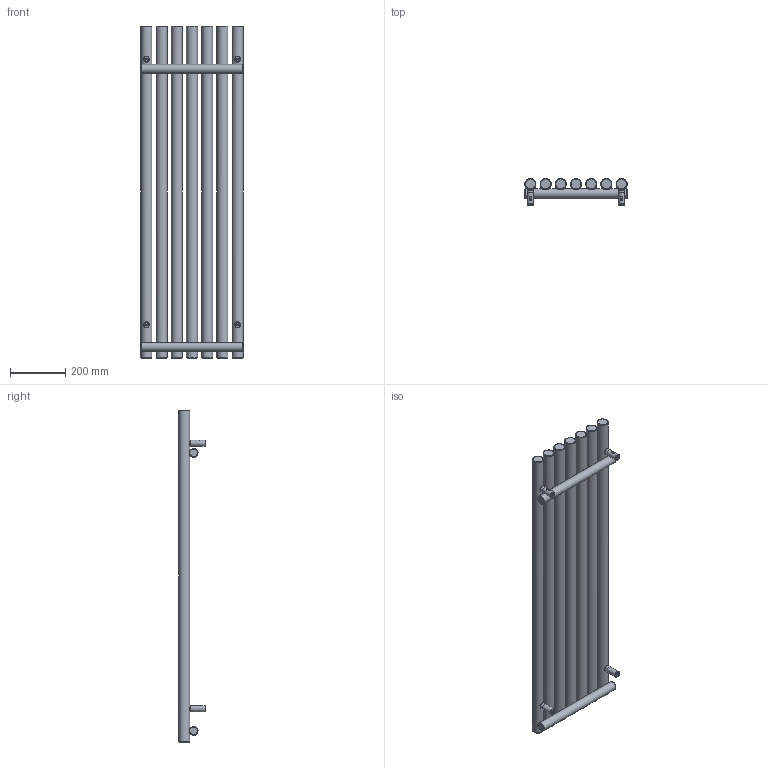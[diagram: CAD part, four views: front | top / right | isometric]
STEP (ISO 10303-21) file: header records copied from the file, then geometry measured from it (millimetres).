
FILE_DESCRIPTION(/* description */ (''),/* implementation_level */ '2;1');
FILE_NAME(/* name */ 'Z:\R\G\P\RGP116 - Grzejniki Geyser\Work\Inventor\Circolo (Rolo V, Rolo H)\ROLO-ROOM\Marketing\Bryły 3D\Zaokrąglone\WLROR120037-ES-CK-(Z).stp',/* time_stamp */ '2024-04-03T09:03:44+02:00',/* author */ ('NowAd'),/* organization */ (''),/* preprocessor_version */ 'ST-DEVELOPER v17.2',/* originating_system */ 'Autodesk Inventor 2019',/* authorisation */ '');
FILE_SCHEMA (('AUTOMOTIVE_DESIGN { 1 0 10303 214 3 1 1 }'));
Length unit declared in the file: millimetre
Products named in the file (3): WLROR120037-ES-CK-(Z); PGROR120037-ES-CK-(K); CK-V-fi40 marketing
Assembly tree (5 placements, depth 2):
  WLROR120037-ES-CK-(Z)
    PGROR120037-ES-CK-(K)
    CK-V-fi40 marketing  x4
Bounding box: 370 x 96.5 x 1200 mm (x, y, z)
Volume: 11191293.2 mm3; surface area: 1173564.9 mm2
Topology: 5 solids, 5 shells, 331 faces, 829 edges, 554 vertices
Faces by surface type: plane 136, cylinder 75, cone 60, torus 46, bspline 14
Full cylindrical faces by diameter (mm): 4.134 x4, 4.48 x4, 6.4 x4, 10 x4, 12 x4, 15.834 x4, 16 x4, 18.631 x2, 22 x4, 32 x2, 40 x7
Entity records: 7346 total; most frequent: CARTESIAN_POINT 3804, DIRECTION 738, ORIENTED_EDGE 696, EDGE_CURVE 348, AXIS2_PLACEMENT_3D 331, VERTEX_POINT 236, EDGE_LOOP 194, CIRCLE 181
